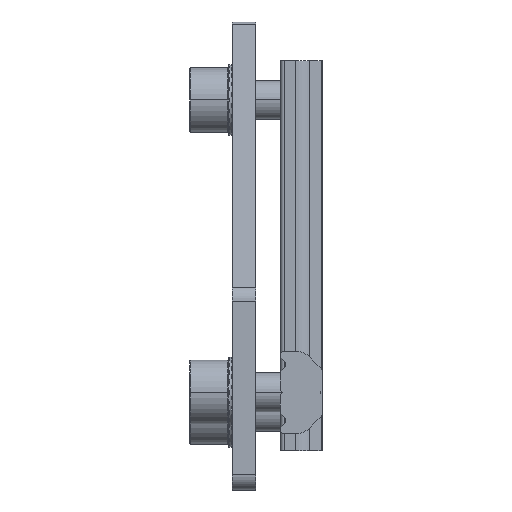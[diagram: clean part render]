
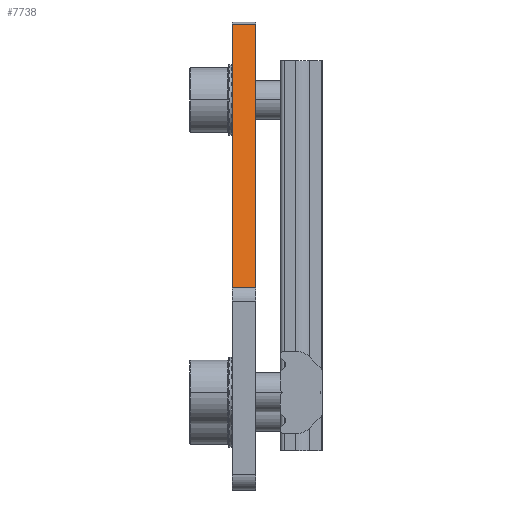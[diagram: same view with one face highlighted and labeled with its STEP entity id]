
A CAD part, left-side view. The second image highlights one B-rep face of the part: STEP entity #7738.
In plain terms, the highlighted planar face has unit normal (-0.5, 0, 0.866).
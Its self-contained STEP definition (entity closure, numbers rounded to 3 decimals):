
#252 = LINE ( 'NONE', #7201, #3741 ) ;
#427 = CARTESIAN_POINT ( 'NONE',  ( -89.712, 7.329, 1.858 ) ) ;
#532 = VECTOR ( 'NONE', #4605, 1000. ) ;
#558 = DIRECTION ( 'NONE',  ( 0.866, 0., 0.5 ) ) ;
#659 = EDGE_CURVE ( 'NONE', #8319, #2352, #8495, .T. ) ;
#1216 = VECTOR ( 'NONE', #7209, 1000. ) ;
#1658 = CARTESIAN_POINT ( 'NONE',  ( -31.176, 4.329, 35.654 ) ) ;
#1847 = EDGE_CURVE ( 'NONE', #3469, #2352, #3544, .T. ) ;
#2024 = DIRECTION ( 'NONE',  ( -0.5, 0., 0.866 ) ) ;
#2352 = VERTEX_POINT ( 'NONE', #8590 ) ;
#2434 = CARTESIAN_POINT ( 'NONE',  ( -89.712, 4.329, 1.858 ) ) ;
#2728 = CARTESIAN_POINT ( 'NONE',  ( -89.712, 4.329, 1.858 ) ) ;
#2809 = FACE_OUTER_BOUND ( 'NONE', #3806, .T. ) ;
#3469 = VERTEX_POINT ( 'NONE', #5529 ) ;
#3544 = LINE ( 'NONE', #427, #9525 ) ;
#3595 = ORIENTED_EDGE ( 'NONE', *, *, #1847, .F. ) ;
#3741 = VECTOR ( 'NONE', #6162, 1000. ) ;
#3806 = EDGE_LOOP ( 'NONE', ( #3595, #5370, #6051, #4799 ) ) ;
#4077 = EDGE_CURVE ( 'NONE', #5934, #8319, #5161, .T. ) ;
#4133 = CARTESIAN_POINT ( 'NONE',  ( -89.712, 4.329, 1.858 ) ) ;
#4233 = PLANE ( 'NONE',  #9207 ) ;
#4605 = DIRECTION ( 'NONE',  ( 0., 1., 0. ) ) ;
#4799 = ORIENTED_EDGE ( 'NONE', *, *, #659, .T. ) ;
#5161 = LINE ( 'NONE', #2434, #1216 ) ;
#5185 = EDGE_CURVE ( 'NONE', #5934, #3469, #252, .T. ) ;
#5370 = ORIENTED_EDGE ( 'NONE', *, *, #5185, .F. ) ;
#5529 = CARTESIAN_POINT ( 'NONE',  ( -89.712, 7.329, 1.858 ) ) ;
#5934 = VERTEX_POINT ( 'NONE', #4133 ) ;
#6051 = ORIENTED_EDGE ( 'NONE', *, *, #4077, .T. ) ;
#6162 = DIRECTION ( 'NONE',  ( 0., 1., 0. ) ) ;
#6896 = CARTESIAN_POINT ( 'NONE',  ( -31.176, 4.329, 35.654 ) ) ;
#7201 = CARTESIAN_POINT ( 'NONE',  ( -89.712, 4.329, 1.858 ) ) ;
#7209 = DIRECTION ( 'NONE',  ( 0.866, 0., 0.5 ) ) ;
#7225 = DIRECTION ( 'NONE',  ( 0.866, 0., 0.5 ) ) ;
#7738 = ADVANCED_FACE ( 'NONE', ( #2809 ), #4233, .T. ) ;
#8319 = VERTEX_POINT ( 'NONE', #1658 ) ;
#8495 = LINE ( 'NONE', #6896, #532 ) ;
#8590 = CARTESIAN_POINT ( 'NONE',  ( -31.176, 7.329, 35.654 ) ) ;
#9207 = AXIS2_PLACEMENT_3D ( 'NONE', #2728, #2024, #7225 ) ;
#9525 = VECTOR ( 'NONE', #558, 1000. ) ;
